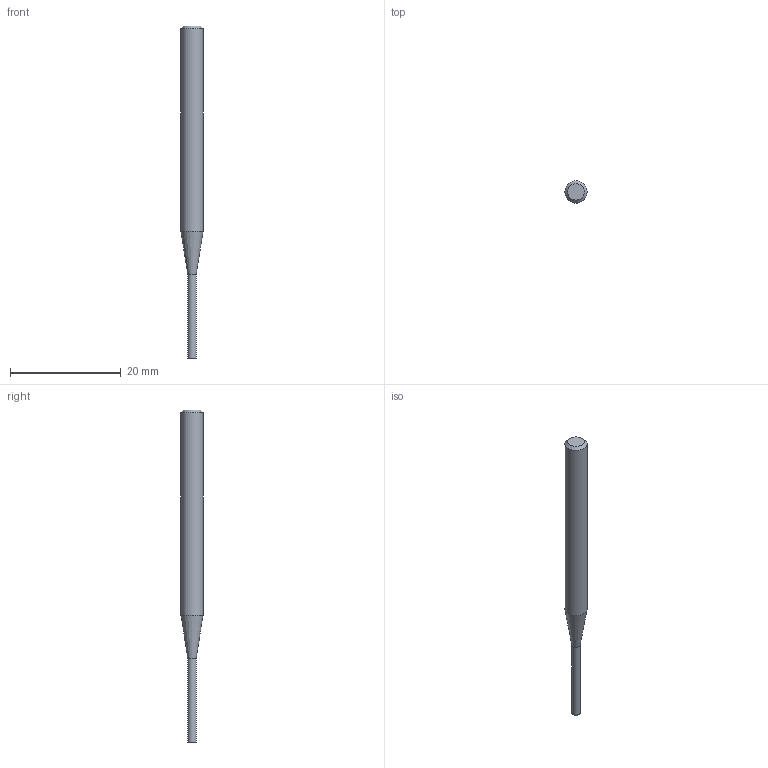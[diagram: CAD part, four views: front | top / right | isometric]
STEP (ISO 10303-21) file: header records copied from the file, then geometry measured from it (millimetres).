
FILE_DESCRIPTION((''),'2;1');
FILE_NAME('C:\Users\nsx150\Desktop\RSE230_20210427\01-00644-01502 RSE230 D1_5X15.step','2021-05-07T14:53:26',(''),(''),'STEP Write','Mastercam 2021 ... CNC Software, Inc.','');
FILE_SCHEMA(('AUTOMOTIVE_DESIGN'));
Length unit declared in the file: millimetre
Products named in the file (1): None
Bounding box: 4 x 4 x 60 mm (x, y, z)
Volume: 541.5 mm3; surface area: 619.9 mm2
Topology: 2 solids, 2 shells, 8 faces, 10 edges, 6 vertices
Faces by surface type: plane 4, cylinder 2, cone 2
Full cylindrical faces by diameter (mm): 1.5 x1, 4 x1
Entity records: 190 total; most frequent: DIRECTION 32, CARTESIAN_POINT 22, AXIS2_PLACEMENT_3D 16, ORIENTED_EDGE 12, EDGE_LOOP 12, STYLED_ITEM 11, ADVANCED_FACE 8, VERTEX_POINT 6
